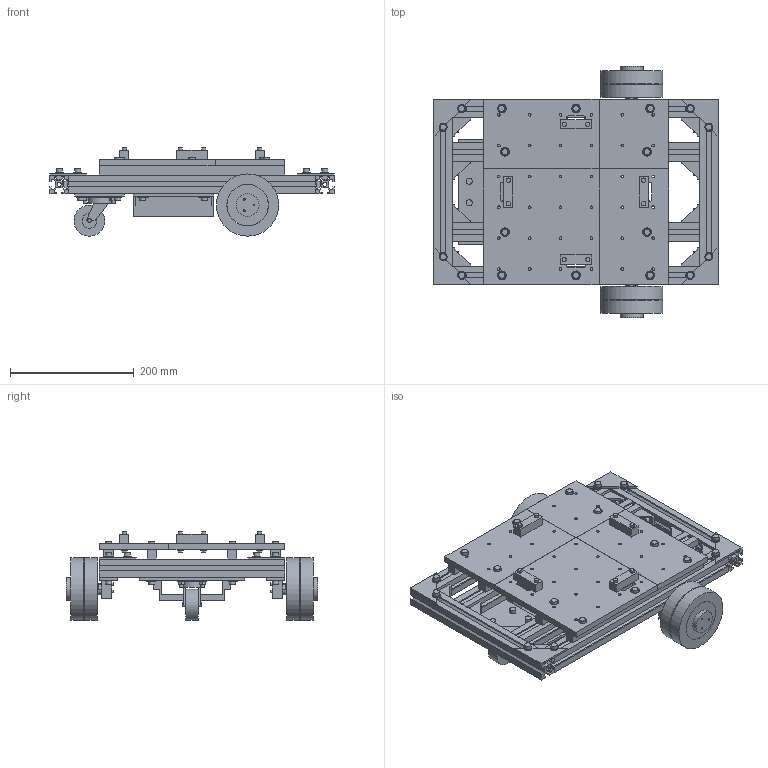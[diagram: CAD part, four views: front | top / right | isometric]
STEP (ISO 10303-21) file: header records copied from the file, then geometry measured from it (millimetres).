
FILE_DESCRIPTION(('FreeCAD Model'),'2;1');
FILE_NAME('Open CASCADE Shape Model','2026-09-21T20:18:34',('FreeCAD'),( 'FreeCAD'),'Open CASCADE STEP processor 7.8','FreeCAD','Unknown');
FILE_SCHEMA(('AUTOMOTIVE_DESIGN { 1 0 10303 214 1 1 1 1 }'));
Products named in the file (1): Open CASCADE STEP translator 7.8 1
Bounding box: 460 x 406.6 x 143 mm (x, y, z)
Volume: 3158892.5 mm3; surface area: 1300810 mm2
Topology: 231 solids, 239 shells, 4530 faces, 11062 edges, 7356 vertices
Faces by surface type: plane 2942, bspline 730, cylinder 660, cone 182, torus 16
Full cylindrical faces by diameter (mm): 2.05 x16, 2.5 x10, 2.52 x6, 2.7 x6, 2.8 x6, 3 x4, 3.2 x6, 4 x8, 4.2 x14, 4.3 x8, 4.5 x58, 4.8 x4, 5 x10, 6 x52, 6.2 x56, 6.3 x16, 6.4 x20, 6.5 x4, 6.6 x52, 6.8 x6, 7 x8, 9 x8, 10 x72, 11.6 x2, 12 x20, 13 x12, 14 x10, 18 x4, 18.5 x2, 19 x2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
Entity records: 136956 total; most frequent: CARTESIAN_POINT 32893, ORIENTED_EDGE 22084, DIRECTION 18850, EDGE_CURVE 11042, LINE 7776, VECTOR 7776, VERTEX_POINT 7356, AXIS2_PLACEMENT_3D 5537
